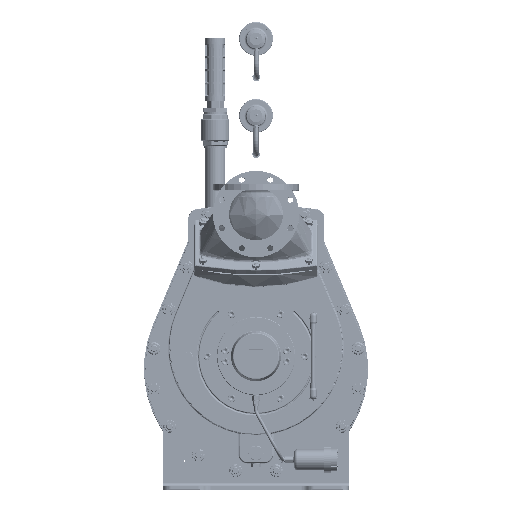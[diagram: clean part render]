
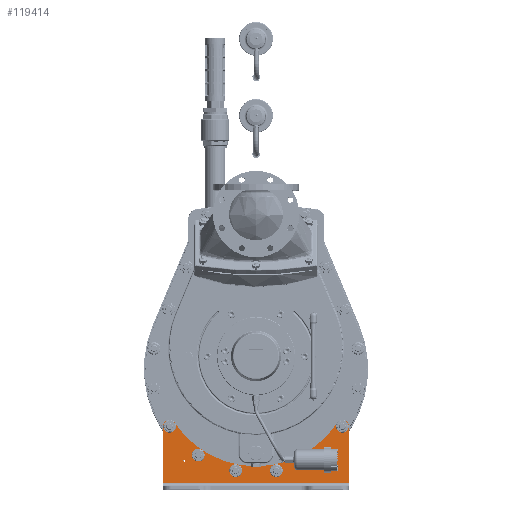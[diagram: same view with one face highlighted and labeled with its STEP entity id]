
A CAD part, top view. The second image highlights one B-rep face of the part: STEP entity #119414.
In plain terms, the highlighted planar face has unit normal (0, 0, 1) as drawn and (1, 0, 0) by its records, which use the part's own axes.
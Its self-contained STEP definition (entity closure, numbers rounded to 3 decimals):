
#13776=FACE_BOUND('',#24313,.T.);
#13777=FACE_BOUND('',#24314,.T.);
#13778=FACE_BOUND('',#24315,.T.);
#13779=FACE_BOUND('',#24316,.T.);
#13780=FACE_BOUND('',#24317,.T.);
#13781=FACE_BOUND('',#24318,.T.);
#13782=FACE_BOUND('',#24319,.T.);
#13783=FACE_BOUND('',#24320,.T.);
#14664=PLANE('',#128147);
#17237=FACE_OUTER_BOUND('',#24312,.T.);
#24312=EDGE_LOOP('',(#81385,#81386,#81387,#81388,#81389,#81390,#81391,#81392,
#81393,#81394));
#24313=EDGE_LOOP('',(#81395));
#24314=EDGE_LOOP('',(#81396));
#24315=EDGE_LOOP('',(#81397));
#24316=EDGE_LOOP('',(#81398));
#24317=EDGE_LOOP('',(#81399));
#24318=EDGE_LOOP('',(#81400));
#24319=EDGE_LOOP('',(#81401));
#24320=EDGE_LOOP('',(#81402));
#32274=LINE('',#165883,#39819);
#32276=LINE('',#165889,#39821);
#32277=LINE('',#165893,#39822);
#32278=LINE('',#165901,#39823);
#32279=LINE('',#165904,#39824);
#39819=VECTOR('',#138213,10.);
#39821=VECTOR('',#138219,10.);
#39822=VECTOR('',#138222,10.);
#39823=VECTOR('',#138229,10.);
#39824=VECTOR('',#138232,10.);
#47366=CIRCLE('',#128148,15.);
#47367=CIRCLE('',#128149,15.);
#47368=CIRCLE('',#128150,231.);
#47369=CIRCLE('',#128151,15.);
#47370=CIRCLE('',#128152,15.);
#47371=CIRCLE('',#128153,2.067);
#47372=CIRCLE('',#128154,2.067);
#47373=CIRCLE('',#128155,9.);
#47374=CIRCLE('',#128156,9.);
#47375=CIRCLE('',#128157,9.);
#47376=CIRCLE('',#128158,9.);
#47377=CIRCLE('',#128159,9.);
#47378=CIRCLE('',#128160,9.);
#51633=VERTEX_POINT('',#165880);
#51634=VERTEX_POINT('',#165882);
#51636=VERTEX_POINT('',#165888);
#51637=VERTEX_POINT('',#165890);
#51638=VERTEX_POINT('',#165892);
#51639=VERTEX_POINT('',#165894);
#51640=VERTEX_POINT('',#165896);
#51641=VERTEX_POINT('',#165898);
#51642=VERTEX_POINT('',#165900);
#51643=VERTEX_POINT('',#165902);
#51644=VERTEX_POINT('',#165905);
#51645=VERTEX_POINT('',#165907);
#51646=VERTEX_POINT('',#165909);
#51647=VERTEX_POINT('',#165911);
#51648=VERTEX_POINT('',#165913);
#51649=VERTEX_POINT('',#165915);
#51650=VERTEX_POINT('',#165917);
#51651=VERTEX_POINT('',#165919);
#63286=EDGE_CURVE('',#51633,#51634,#32274,.T.);
#63289=EDGE_CURVE('',#51636,#51633,#32276,.T.);
#63290=EDGE_CURVE('',#51637,#51636,#47366,.T.);
#63291=EDGE_CURVE('',#51638,#51637,#32277,.T.);
#63292=EDGE_CURVE('',#51639,#51638,#47367,.T.);
#63293=EDGE_CURVE('',#51639,#51640,#47368,.T.);
#63294=EDGE_CURVE('',#51641,#51640,#47369,.T.);
#63295=EDGE_CURVE('',#51642,#51641,#32278,.T.);
#63296=EDGE_CURVE('',#51643,#51642,#47370,.T.);
#63297=EDGE_CURVE('',#51634,#51643,#32279,.T.);
#63298=EDGE_CURVE('',#51644,#51644,#47371,.T.);
#63299=EDGE_CURVE('',#51645,#51645,#47372,.T.);
#63300=EDGE_CURVE('',#51646,#51646,#47373,.T.);
#63301=EDGE_CURVE('',#51647,#51647,#47374,.T.);
#63302=EDGE_CURVE('',#51648,#51648,#47375,.T.);
#63303=EDGE_CURVE('',#51649,#51649,#47376,.T.);
#63304=EDGE_CURVE('',#51650,#51650,#47377,.T.);
#63305=EDGE_CURVE('',#51651,#51651,#47378,.T.);
#81385=ORIENTED_EDGE('',*,*,#63286,.F.);
#81386=ORIENTED_EDGE('',*,*,#63289,.F.);
#81387=ORIENTED_EDGE('',*,*,#63290,.F.);
#81388=ORIENTED_EDGE('',*,*,#63291,.F.);
#81389=ORIENTED_EDGE('',*,*,#63292,.F.);
#81390=ORIENTED_EDGE('',*,*,#63293,.T.);
#81391=ORIENTED_EDGE('',*,*,#63294,.F.);
#81392=ORIENTED_EDGE('',*,*,#63295,.F.);
#81393=ORIENTED_EDGE('',*,*,#63296,.F.);
#81394=ORIENTED_EDGE('',*,*,#63297,.F.);
#81395=ORIENTED_EDGE('',*,*,#63298,.T.);
#81396=ORIENTED_EDGE('',*,*,#63299,.T.);
#81397=ORIENTED_EDGE('',*,*,#63300,.T.);
#81398=ORIENTED_EDGE('',*,*,#63301,.T.);
#81399=ORIENTED_EDGE('',*,*,#63302,.T.);
#81400=ORIENTED_EDGE('',*,*,#63303,.T.);
#81401=ORIENTED_EDGE('',*,*,#63304,.T.);
#81402=ORIENTED_EDGE('',*,*,#63305,.T.);
#119414=ADVANCED_FACE('',(#17237,#13776,#13777,#13778,#13779,#13780,#13781,
#13782,#13783),#14664,.T.);
#128147=AXIS2_PLACEMENT_3D('',#165887,#138217,#138218);
#128148=AXIS2_PLACEMENT_3D('',#165891,#138220,#138221);
#128149=AXIS2_PLACEMENT_3D('',#165895,#138223,#138224);
#128150=AXIS2_PLACEMENT_3D('',#165897,#138225,#138226);
#128151=AXIS2_PLACEMENT_3D('',#165899,#138227,#138228);
#128152=AXIS2_PLACEMENT_3D('',#165903,#138230,#138231);
#128153=AXIS2_PLACEMENT_3D('',#165906,#138233,#138234);
#128154=AXIS2_PLACEMENT_3D('',#165908,#138235,#138236);
#128155=AXIS2_PLACEMENT_3D('',#165910,#138237,#138238);
#128156=AXIS2_PLACEMENT_3D('',#165912,#138239,#138240);
#128157=AXIS2_PLACEMENT_3D('',#165914,#138241,#138242);
#128158=AXIS2_PLACEMENT_3D('',#165916,#138243,#138244);
#128159=AXIS2_PLACEMENT_3D('',#165918,#138245,#138246);
#128160=AXIS2_PLACEMENT_3D('',#165920,#138247,#138248);
#138213=DIRECTION('',(0.,0.,1.));
#138217=DIRECTION('center_axis',(1.,0.,0.));
#138218=DIRECTION('ref_axis',(0.,0.,-1.));
#138219=DIRECTION('',(0.,-1.,0.));
#138220=DIRECTION('center_axis',(-1.,0.,0.));
#138221=DIRECTION('ref_axis',(0.,0.707,-0.707));
#138222=DIRECTION('',(0.,0.,-1.));
#138223=DIRECTION('center_axis',(-1.,0.,0.));
#138224=DIRECTION('ref_axis',(0.,0.881,0.473));
#138225=DIRECTION('center_axis',(-1.,0.,0.));
#138226=DIRECTION('ref_axis',(0.,0.,-1.));
#138227=DIRECTION('center_axis',(-1.,0.,0.));
#138228=DIRECTION('ref_axis',(0.,0.881,-0.473));
#138229=DIRECTION('',(0.,0.,-1.));
#138230=DIRECTION('center_axis',(-1.,0.,0.));
#138231=DIRECTION('ref_axis',(0.,0.707,0.707));
#138232=DIRECTION('',(0.,1.,0.));
#138233=DIRECTION('center_axis',(-1.,0.,0.));
#138234=DIRECTION('ref_axis',(0.,0.,
-1.));
#138235=DIRECTION('center_axis',(-1.,0.,0.));
#138236=DIRECTION('ref_axis',(0.,0.,
-1.));
#138237=DIRECTION('center_axis',(-1.,0.,0.));
#138238=DIRECTION('ref_axis',(0.,0.,-1.));
#138239=DIRECTION('center_axis',(-1.,0.,0.));
#138240=DIRECTION('ref_axis',(0.,0.,-1.));
#138241=DIRECTION('center_axis',(-1.,0.,0.));
#138242=DIRECTION('ref_axis',(0.,0.,-1.));
#138243=DIRECTION('center_axis',(-1.,0.,0.));
#138244=DIRECTION('ref_axis',(0.,0.,-1.));
#138245=DIRECTION('center_axis',(-1.,0.,0.));
#138246=DIRECTION('ref_axis',(0.,0.,-1.));
#138247=DIRECTION('center_axis',(-1.,0.,0.));
#138248=DIRECTION('ref_axis',(0.,0.,-1.));
#165880=CARTESIAN_POINT('',(8.,16.,-220.));
#165882=CARTESIAN_POINT('',(8.,16.,220.));
#165883=CARTESIAN_POINT('',(8.,16.,0.));
#165887=CARTESIAN_POINT('Origin',(8.,58.,0.));
#165888=CARTESIAN_POINT('',(8.,150.,-220.));
#165889=CARTESIAN_POINT('',(8.,0.,-220.));
#165890=CARTESIAN_POINT('',(8.,165.,-205.));
#165891=CARTESIAN_POINT('Origin',(8.,150.,-205.));
#165892=CARTESIAN_POINT('',(8.,165.,-204.988));
#165893=CARTESIAN_POINT('',(8.,165.,-220.));
#165894=CARTESIAN_POINT('',(8.,158.293,-192.489));
#165895=CARTESIAN_POINT('Origin',(8.,150.,-204.988));
#165896=CARTESIAN_POINT('',(8.,158.293,192.489));
#165897=CARTESIAN_POINT('Origin',(8.,286.,0.));
#165898=CARTESIAN_POINT('',(8.,165.,204.988));
#165899=CARTESIAN_POINT('Origin',(8.,150.,204.988));
#165900=CARTESIAN_POINT('',(8.,165.,205.));
#165901=CARTESIAN_POINT('',(8.,165.,-220.));
#165902=CARTESIAN_POINT('',(8.,150.,220.));
#165903=CARTESIAN_POINT('Origin',(8.,150.,205.));
#165904=CARTESIAN_POINT('',(8.,165.,220.));
#165905=CARTESIAN_POINT('',(8.,68.,-167.933));
#165906=CARTESIAN_POINT('Origin',(8.,68.,-170.));
#165907=CARTESIAN_POINT('',(8.,68.,172.067));
#165908=CARTESIAN_POINT('Origin',(8.,68.,170.));
#165909=CARTESIAN_POINT('',(8.,149.33,213.542));
#165910=CARTESIAN_POINT('Origin',(8.,149.33,204.542));
#165911=CARTESIAN_POINT('',(8.,44.727,56.992));
#165912=CARTESIAN_POINT('Origin',(8.,44.727,47.992));
#165913=CARTESIAN_POINT('',(8.,81.458,-127.67));
#165914=CARTESIAN_POINT('Origin',(8.,81.458,-136.67));
#165915=CARTESIAN_POINT('',(8.,149.33,-195.542));
#165916=CARTESIAN_POINT('Origin',(8.,149.33,-204.542));
#165917=CARTESIAN_POINT('',(8.,44.727,-38.992));
#165918=CARTESIAN_POINT('Origin',(8.,44.727,-47.992));
#165919=CARTESIAN_POINT('',(8.,81.458,145.67));
#165920=CARTESIAN_POINT('Origin',(8.,81.458,136.67));
